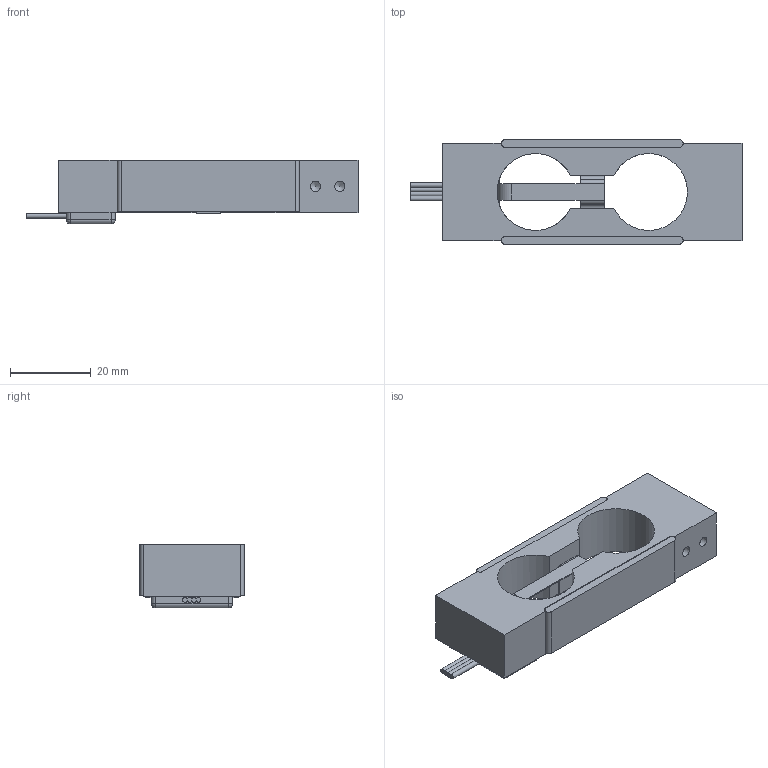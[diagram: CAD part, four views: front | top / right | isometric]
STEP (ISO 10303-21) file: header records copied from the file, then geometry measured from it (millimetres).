
FILE_DESCRIPTION (( 'STEP AP214' ), '1' );
FILE_NAME ('KM200_50N_Dummy.STEP', '2019-05-23T07:27:58', ( '' ), ( '' ), 'SwSTEP 2.0', 'SolidWorks 2017', '' );
FILE_SCHEMA (( 'AUTOMOTIVE_DESIGN' ));
Length unit declared in the file: millimetre
Products named in the file (1): KM200_50N_Dummy
Bounding box: 82 x 25.8 x 15.8 mm (x, y, z)
Volume: 16327.7 mm3; surface area: 7756.5 mm2
Topology: 1 solids, 1 shells, 94 faces, 266 edges, 166 vertices
Faces by surface type: plane 48, cylinder 38, cone 4, sphere 4
Full cylindrical faces by diameter (mm): 2.5 x4
Entity records: 3715 total; most frequent: DIRECTION 526, CARTESIAN_POINT 513, ORIENTED_EDGE 500, EDGE_CURVE 250, AXIS2_PLACEMENT_3D 183, VERTEX_POINT 162, VECTOR 160, LINE 160
